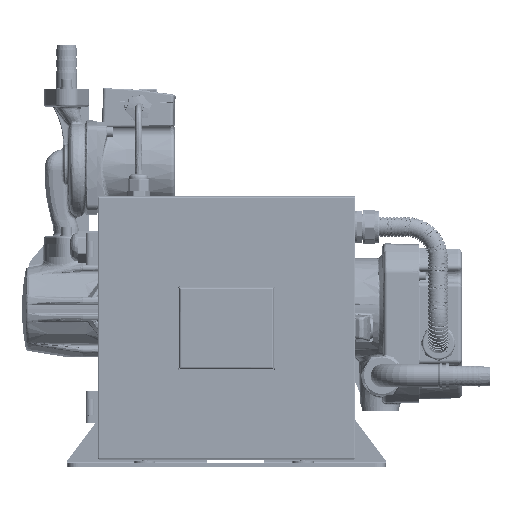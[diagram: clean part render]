
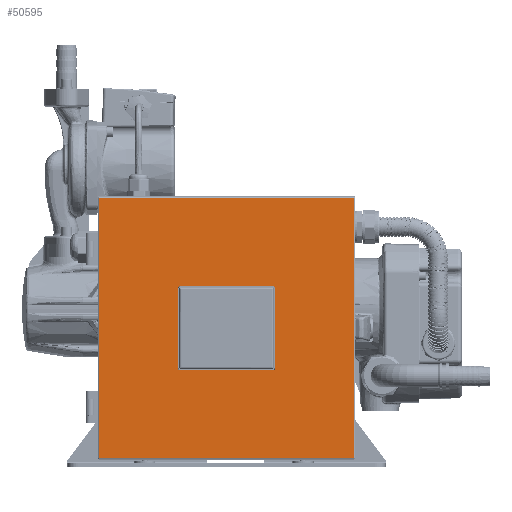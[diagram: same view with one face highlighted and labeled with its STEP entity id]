
A CAD part, top view. The second image highlights one B-rep face of the part: STEP entity #50595.
In plain terms, the highlighted planar face has unit normal (0, 0, 1).
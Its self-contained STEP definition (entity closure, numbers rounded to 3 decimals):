
#45548=FACE_BOUND('',#64738,.T.);
#45549=FACE_BOUND('',#64739,.T.);
#48580=PLANE('',#153945);
#50595=ADVANCED_FACE('',(#45548,#45549),#48580,.F.);
#64738=EDGE_LOOP('',(#89664,#89665,#89666,#89667,#89668,#89669,#89670,#89671));
#64739=EDGE_LOOP('',(#89672,#89673,#89674,#89675));
#71692=LINE('',#203961,#76145);
#71696=LINE('',#203981,#76149);
#71697=LINE('',#203987,#76150);
#71699=LINE('',#203991,#76152);
#71700=LINE('',#203996,#76153);
#71701=LINE('',#204000,#76154);
#71702=LINE('',#204004,#76155);
#71703=LINE('',#204007,#76156);
#76145=VECTOR('',#162815,1.);
#76149=VECTOR('',#162843,1.);
#76150=VECTOR('',#162852,1.);
#76152=VECTOR('',#162858,1.);
#76153=VECTOR('',#162861,1.);
#76154=VECTOR('',#162864,1.);
#76155=VECTOR('',#162867,1.);
#76156=VECTOR('',#162870,1.);
#89664=ORIENTED_EDGE('',*,*,#134049,.T.);
#89665=ORIENTED_EDGE('',*,*,#134050,.T.);
#89666=ORIENTED_EDGE('',*,*,#134051,.T.);
#89667=ORIENTED_EDGE('',*,*,#134052,.T.);
#89668=ORIENTED_EDGE('',*,*,#134053,.T.);
#89669=ORIENTED_EDGE('',*,*,#134054,.T.);
#89670=ORIENTED_EDGE('',*,*,#134055,.T.);
#89671=ORIENTED_EDGE('',*,*,#134056,.T.);
#89672=ORIENTED_EDGE('',*,*,#134044,.F.);
#89673=ORIENTED_EDGE('',*,*,#134057,.T.);
#89674=ORIENTED_EDGE('',*,*,#134034,.F.);
#89675=ORIENTED_EDGE('',*,*,#134047,.F.);
#123147=VERTEX_POINT('',#203958);
#123148=VERTEX_POINT('',#203962);
#123151=VERTEX_POINT('',#203978);
#123152=VERTEX_POINT('',#203982);
#123153=VERTEX_POINT('',#203992);
#123154=VERTEX_POINT('',#203993);
#123155=VERTEX_POINT('',#203995);
#123156=VERTEX_POINT('',#203997);
#123157=VERTEX_POINT('',#203999);
#123158=VERTEX_POINT('',#204001);
#123159=VERTEX_POINT('',#204003);
#123160=VERTEX_POINT('',#204005);
#134034=EDGE_CURVE('',#123147,#123148,#71692,.T.);
#134044=EDGE_CURVE('',#123151,#123152,#71696,.T.);
#134047=EDGE_CURVE('',#123152,#123147,#71697,.T.);
#134049=EDGE_CURVE('',#123153,#123154,#71699,.T.);
#134050=EDGE_CURVE('',#123154,#123155,#149912,.T.);
#134051=EDGE_CURVE('',#123155,#123156,#71700,.T.);
#134052=EDGE_CURVE('',#123156,#123157,#149913,.T.);
#134053=EDGE_CURVE('',#123157,#123158,#71701,.T.);
#134054=EDGE_CURVE('',#123158,#123159,#149914,.T.);
#134055=EDGE_CURVE('',#123159,#123160,#71702,.T.);
#134056=EDGE_CURVE('',#123160,#123153,#149915,.T.);
#134057=EDGE_CURVE('',#123151,#123148,#71703,.T.);
#149912=CIRCLE('',#153941,2.376);
#149913=CIRCLE('',#153942,2.376);
#149914=CIRCLE('',#153943,2.376);
#149915=CIRCLE('',#153944,2.376);
#153941=AXIS2_PLACEMENT_3D('',#203994,#162859,#162860);
#153942=AXIS2_PLACEMENT_3D('',#203998,#162862,#162863);
#153943=AXIS2_PLACEMENT_3D('',#204002,#162865,#162866);
#153944=AXIS2_PLACEMENT_3D('',#204006,#162868,#162869);
#153945=AXIS2_PLACEMENT_3D('',#204008,#162871,#162872);
#162815=DIRECTION('',(0.,-1.,0.));
#162843=DIRECTION('',(0.,1.,0.));
#162852=DIRECTION('',(1.,0.,0.));
#162858=DIRECTION('',(-1.,0.,0.));
#162859=DIRECTION('',(0.,0.,-1.));
#162860=DIRECTION('',(-1.,0.,0.));
#162861=DIRECTION('',(0.,1.,0.));
#162862=DIRECTION('',(0.,0.,-1.));
#162863=DIRECTION('',(-1.,0.,0.));
#162864=DIRECTION('',(1.,0.,0.));
#162865=DIRECTION('',(0.,0.,-1.));
#162866=DIRECTION('',(-1.,0.,0.));
#162867=DIRECTION('',(0.,-1.,0.));
#162868=DIRECTION('',(0.,0.,-1.));
#162869=DIRECTION('',(-1.,0.,0.));
#162870=DIRECTION('',(1.,0.,0.));
#162871=DIRECTION('',(0.,0.,-1.));
#162872=DIRECTION('',(-1.,0.,0.));
#203958=CARTESIAN_POINT('',(240.942,-249.519,178.747));
#203961=CARTESIAN_POINT('',(240.942,-249.519,178.747));
#203962=CARTESIAN_POINT('',(240.942,-495.519,178.747));
#203978=CARTESIAN_POINT('',(-0.058,-495.519,178.747));
#203981=CARTESIAN_POINT('',(-0.058,-495.519,178.747));
#203982=CARTESIAN_POINT('',(-0.058,-249.519,178.747));
#203987=CARTESIAN_POINT('',(-0.058,-249.519,178.747));
#203991=CARTESIAN_POINT('',(241.942,-412.595,178.747));
#203992=CARTESIAN_POINT('',(164.142,-412.595,178.747));
#203993=CARTESIAN_POINT('',(76.742,-412.595,178.747));
#203994=CARTESIAN_POINT('',(76.742,-410.219,178.747));
#203995=CARTESIAN_POINT('',(74.366,-410.219,178.747));
#203996=CARTESIAN_POINT('',(74.366,-497.019,178.747));
#203997=CARTESIAN_POINT('',(74.366,-334.819,178.747));
#203998=CARTESIAN_POINT('',(76.742,-334.819,178.747));
#203999=CARTESIAN_POINT('',(76.742,-332.443,178.747));
#204000=CARTESIAN_POINT('',(241.942,-332.443,178.747));
#204001=CARTESIAN_POINT('',(164.142,-332.443,178.747));
#204002=CARTESIAN_POINT('',(164.142,-334.819,178.747));
#204003=CARTESIAN_POINT('',(166.519,-334.819,178.747));
#204004=CARTESIAN_POINT('',(166.519,-497.019,178.747));
#204005=CARTESIAN_POINT('',(166.519,-410.219,178.747));
#204006=CARTESIAN_POINT('',(164.142,-410.219,178.747));
#204007=CARTESIAN_POINT('',(-0.058,-495.519,178.747));
#204008=CARTESIAN_POINT('',(241.942,-497.019,178.747));
